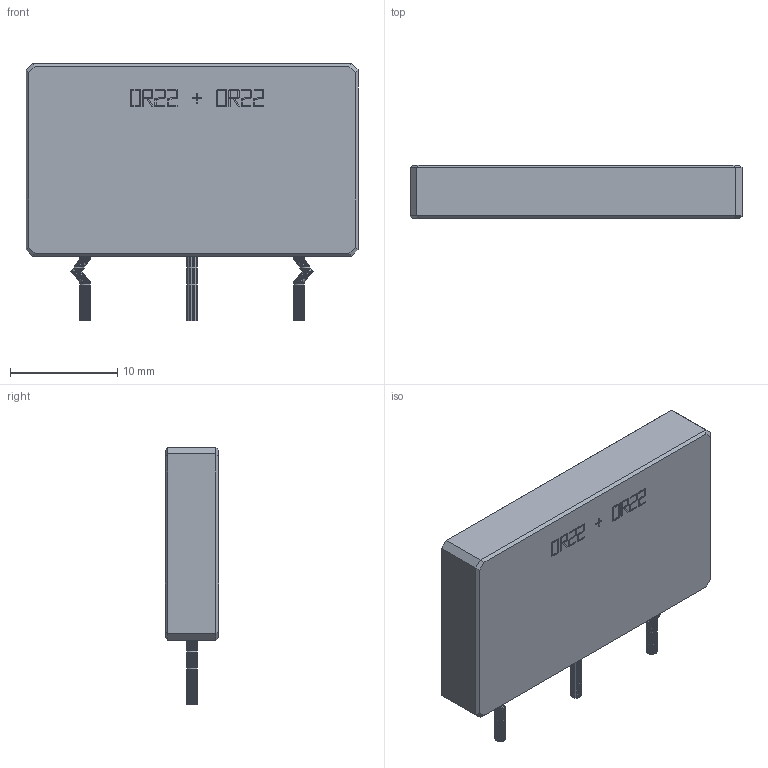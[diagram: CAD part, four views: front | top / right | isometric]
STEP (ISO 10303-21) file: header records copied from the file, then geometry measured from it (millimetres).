
FILE_DESCRIPTION(('Dual emitter resistor'),'2;1');
FILE_NAME('resistor.step','2026-10-15T22:00:00',(''),(''),'Codex','Codex','');
FILE_SCHEMA(('AUTOMOTIVE_DESIGN'));
Length unit declared in the file: millimetre
Products named in the file (1): R_Dual_0R22_L31_W5_H18_P10
Bounding box: 31 x 5.03 x 24 mm (x, y, z)
Volume: 2795.7 mm3; surface area: 1647 mm2
Topology: 44 solids, 44 shells, 656 faces, 1400 edges, 832 vertices
Faces by surface type: plane 656
Entity records: 5876 total; most frequent: DIRECTION 1312, CARTESIAN_POINT 832, POLY_LOOP 656, FACE_OUTER_BOUND 656, AXIS2_PLACEMENT_3D 656, PLANE 656, FACE_SURFACE 656, CLOSED_SHELL 44
